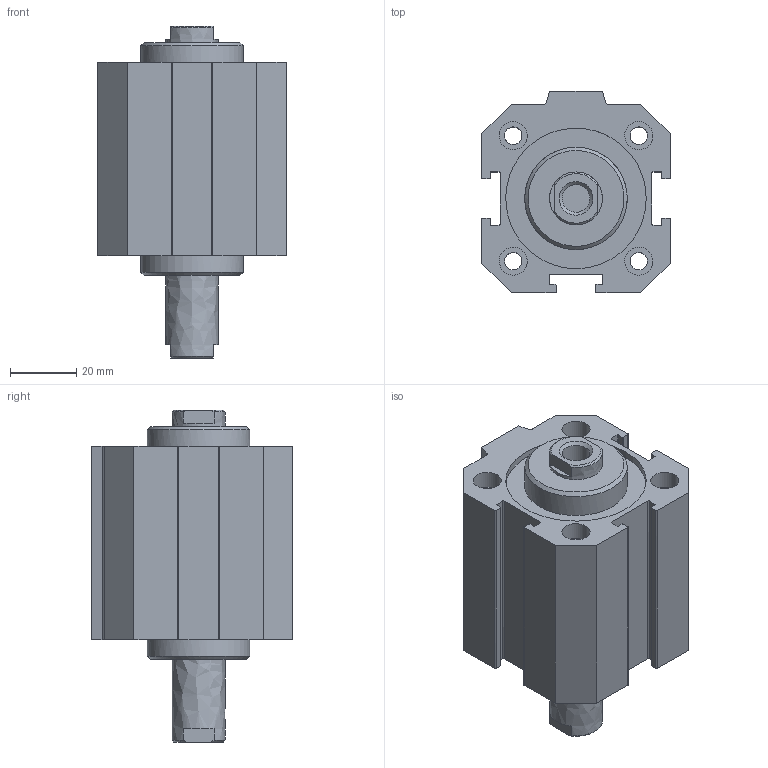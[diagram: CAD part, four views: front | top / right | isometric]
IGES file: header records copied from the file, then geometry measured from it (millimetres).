
Global section: file name: 1514_40_0020; native system: Autodesk Inventor 2014; preprocessor: unknown; author: A. Manieri; date: 20160824.120205; units: millimetre
Bounding box: 57 x 61 x 100.5 mm (x, y, z)
Volume: 152596.7 mm3; surface area: 45480 mm2
Topology: 2 solids, 2 shells, 130 faces, 339 edges, 233 vertices
Faces by surface type: bspline 130
